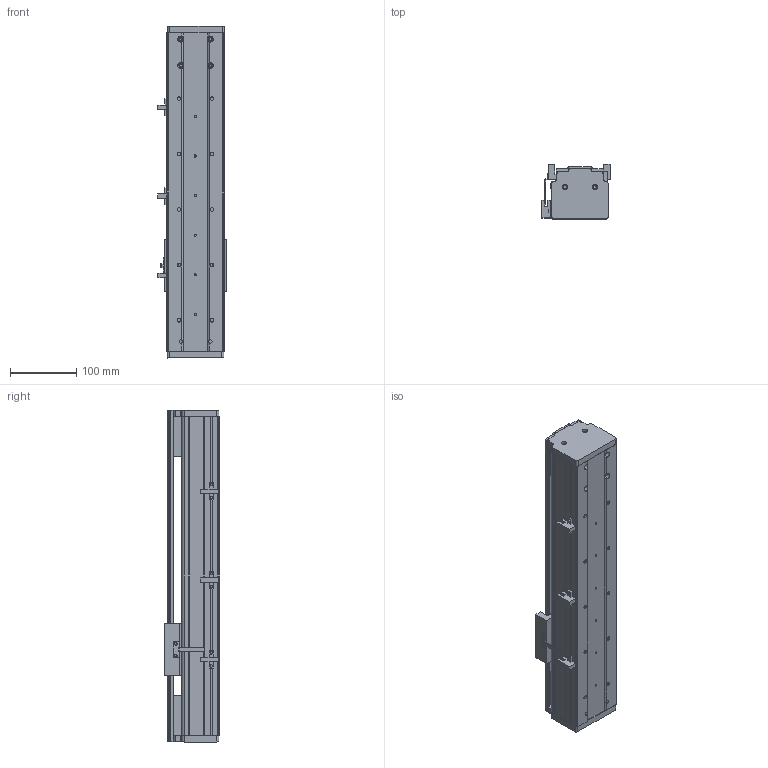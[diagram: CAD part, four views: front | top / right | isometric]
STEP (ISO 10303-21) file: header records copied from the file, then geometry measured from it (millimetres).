
FILE_DESCRIPTION (( 'STEP AP214' ), '1' );
FILE_NAME ('CF86-D-250-FWR.STEP', '2020-01-15T07:18:43', ( '微软用户' ), ( '微软中国' ), 'SwSTEP 2.0', 'SolidWorks 2016', '' );
FILE_SCHEMA (( 'AUTOMOTIVE_DESIGN' ));
Length unit declared in the file: millimetre
Products named in the file (12): 75-86-95癹弇羲壽覜茼え; 86耜啣 - 萵掛; 86耜啣; 植雄耜; CF86郔陔翋雄釱; CF86賑輸; EGW15CA賑輸; EGR15-250; 86臏倰第-250; 86裔啣-250; CF86-D-250-FWR; 嫖萇羲壽
Assembly tree (13 placements, depth 2):
  CF86-D-250-FWR
    86裔啣-250
    86臏倰第-250
    EGR15-250
    EGW15CA賑輸
    CF86賑輸
    CF86郔陔翋雄釱
    植雄耜
    86耜啣
    86耜啣 - 萵掛
    75-86-95癹弇羲壽覜茼え
    嫖萇羲壽  x3
Bounding box: 103.6 x 83.35 x 503 mm (x, y, z)
Volume: 1670746.8 mm3; surface area: 493406.3 mm2
Topology: 13 solids, 13 shells, 625 faces, 1716 edges, 1133 vertices
Faces by surface type: plane 352, cylinder 263, cone 10
Entity records: 19942 total; most frequent: CARTESIAN_POINT 3438, DIRECTION 3214, ORIENTED_EDGE 3124, EDGE_CURVE 1562, AXIS2_PLACEMENT_3D 1109, VERTEX_POINT 1037, VECTOR 996, LINE 996
